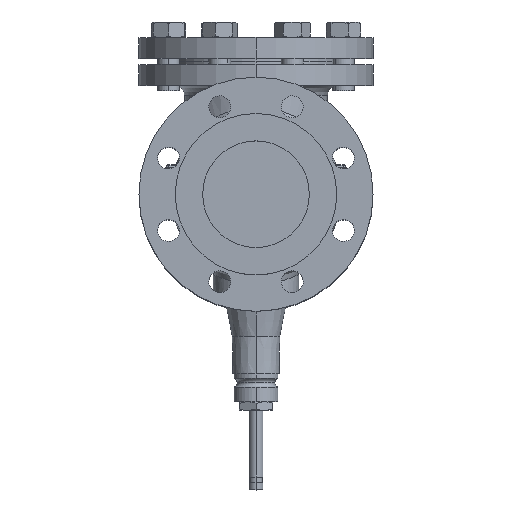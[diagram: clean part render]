
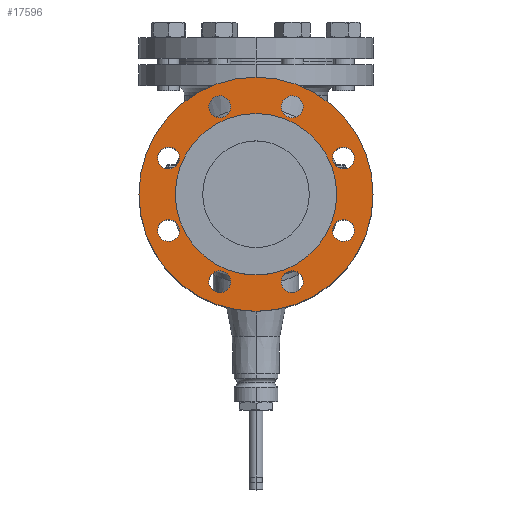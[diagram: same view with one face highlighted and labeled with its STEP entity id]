
A CAD part, top view. The second image highlights one B-rep face of the part: STEP entity #17596.
In plain terms, the highlighted planar face has unit normal (0, 0, 1).
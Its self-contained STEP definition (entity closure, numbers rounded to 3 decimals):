
#16772=CARTESIAN_POINT('',(0.,-117.5,347.0));
#16773=VERTEX_POINT('',#16772);
#16789=CARTESIAN_POINT('',(0.,117.5,347.0));
#16790=VERTEX_POINT('',#16789);
#16797=CARTESIAN_POINT('',(0.,0.,347.0));
#16798=DIRECTION('',(0.0,0.0,1.0));
#16799=DIRECTION('',(0.0,-1.0,0.0));
#16800=AXIS2_PLACEMENT_3D('',#16797,#16798,#16799);
#16801=CIRCLE('',#16800,117.5);
#16802=EDGE_CURVE('',#16773,#16790,#16801,.T.);
#16812=CARTESIAN_POINT('',(-40.564,-97.931,347.0));
#16813=VERTEX_POINT('',#16812);
#16822=CARTESIAN_POINT('',(-32.145,-77.606,347.0));
#16823=VERTEX_POINT('',#16822);
#16824=CARTESIAN_POINT('',(-36.355,-87.769,347.0));
#16825=DIRECTION('',(0.,0.,-1.));
#16826=DIRECTION('',(-0.383,-0.924,0.));
#16827=AXIS2_PLACEMENT_3D('',#16824,#16825,#16826);
#16828=CIRCLE('',#16827,11.);
#16829=EDGE_CURVE('',#16823,#16813,#16828,.T.);
#16854=CARTESIAN_POINT('',(-97.931,-40.564,347.0));
#16855=VERTEX_POINT('',#16854);
#16864=CARTESIAN_POINT('',(-77.606,-32.145,347.0));
#16865=VERTEX_POINT('',#16864);
#16866=CARTESIAN_POINT('',(-87.769,-36.355,347.0));
#16867=DIRECTION('',(0.,0.,-1.));
#16868=DIRECTION('',(-0.924,-0.383,0.));
#16869=AXIS2_PLACEMENT_3D('',#16866,#16867,#16868);
#16870=CIRCLE('',#16869,11.0);
#16871=EDGE_CURVE('',#16865,#16855,#16870,.T.);
#16896=CARTESIAN_POINT('',(-97.931,40.564,347.0));
#16897=VERTEX_POINT('',#16896);
#16906=CARTESIAN_POINT('',(-77.606,32.145,347.0));
#16907=VERTEX_POINT('',#16906);
#16908=CARTESIAN_POINT('',(-87.769,36.355,347.0));
#16909=DIRECTION('',(0.,0.,-1.));
#16910=DIRECTION('',(-0.924,0.383,0.));
#16911=AXIS2_PLACEMENT_3D('',#16908,#16909,#16910);
#16912=CIRCLE('',#16911,11.0);
#16913=EDGE_CURVE('',#16907,#16897,#16912,.T.);
#16938=CARTESIAN_POINT('',(-40.564,97.931,347.0));
#16939=VERTEX_POINT('',#16938);
#16948=CARTESIAN_POINT('',(-32.145,77.606,347.0));
#16949=VERTEX_POINT('',#16948);
#16950=CARTESIAN_POINT('',(-36.355,87.769,347.0));
#16951=DIRECTION('',(0.,0.,-1.0));
#16952=DIRECTION('',(-0.383,0.924,0.));
#16953=AXIS2_PLACEMENT_3D('',#16950,#16951,#16952);
#16954=CIRCLE('',#16953,11.0);
#16955=EDGE_CURVE('',#16949,#16939,#16954,.T.);
#16980=CARTESIAN_POINT('',(40.564,97.931,347.0));
#16981=VERTEX_POINT('',#16980);
#16990=CARTESIAN_POINT('',(32.145,77.606,347.0));
#16991=VERTEX_POINT('',#16990);
#16992=CARTESIAN_POINT('',(36.355,87.769,347.0));
#16993=DIRECTION('',(0.,0.,-1.));
#16994=DIRECTION('',(0.383,0.924,0.));
#16995=AXIS2_PLACEMENT_3D('',#16992,#16993,#16994);
#16996=CIRCLE('',#16995,11.);
#16997=EDGE_CURVE('',#16991,#16981,#16996,.T.);
#17022=CARTESIAN_POINT('',(97.931,40.564,347.0));
#17023=VERTEX_POINT('',#17022);
#17032=CARTESIAN_POINT('',(77.606,32.145,347.0));
#17033=VERTEX_POINT('',#17032);
#17034=CARTESIAN_POINT('',(87.769,36.355,347.0));
#17035=DIRECTION('',(0.,0.,-1.0));
#17036=DIRECTION('',(0.924,0.383,0.));
#17037=AXIS2_PLACEMENT_3D('',#17034,#17035,#17036);
#17038=CIRCLE('',#17037,11.0);
#17039=EDGE_CURVE('',#17033,#17023,#17038,.T.);
#17064=CARTESIAN_POINT('',(97.931,-40.564,347.0));
#17065=VERTEX_POINT('',#17064);
#17074=CARTESIAN_POINT('',(77.606,-32.145,347.0));
#17075=VERTEX_POINT('',#17074);
#17076=CARTESIAN_POINT('',(87.769,-36.355,347.0));
#17077=DIRECTION('',(0.,0.,-1.));
#17078=DIRECTION('',(0.924,-0.383,0.));
#17079=AXIS2_PLACEMENT_3D('',#17076,#17077,#17078);
#17080=CIRCLE('',#17079,11.);
#17081=EDGE_CURVE('',#17075,#17065,#17080,.T.);
#17106=CARTESIAN_POINT('',(40.564,-97.931,347.0));
#17107=VERTEX_POINT('',#17106);
#17116=CARTESIAN_POINT('',(32.145,-77.606,347.0));
#17117=VERTEX_POINT('',#17116);
#17118=CARTESIAN_POINT('',(36.355,-87.769,347.0));
#17119=DIRECTION('',(0.,0.,-1.));
#17120=DIRECTION('',(0.383,-0.924,0.));
#17121=AXIS2_PLACEMENT_3D('',#17118,#17119,#17120);
#17122=CIRCLE('',#17121,11.0);
#17123=EDGE_CURVE('',#17117,#17107,#17122,.T.);
#17148=CARTESIAN_POINT('',(0.,-81.,347.0));
#17149=VERTEX_POINT('',#17148);
#17158=CARTESIAN_POINT('',(0.,81.,347.0));
#17159=VERTEX_POINT('',#17158);
#17160=CARTESIAN_POINT('',(0.,0.,347.0));
#17161=DIRECTION('',(0.0,0.0,-1.0));
#17162=DIRECTION('',(0.0,-1.0,0.0));
#17163=AXIS2_PLACEMENT_3D('',#17160,#17161,#17162);
#17164=CIRCLE('',#17163,81.0);
#17165=EDGE_CURVE('',#17159,#17149,#17164,.T.);
#17265=CARTESIAN_POINT('',(0.,0.,347.0));
#17266=DIRECTION('',(0.0,0.0,-1.0));
#17267=DIRECTION('',(0.0,-1.0,0.0));
#17268=AXIS2_PLACEMENT_3D('',#17265,#17266,#17267);
#17269=CIRCLE('',#17268,81.0);
#17270=EDGE_CURVE('',#17149,#17159,#17269,.T.);
#17303=CARTESIAN_POINT('',(36.355,-87.769,347.0));
#17304=DIRECTION('',(0.,0.,-1.));
#17305=DIRECTION('',(0.383,-0.924,0.));
#17306=AXIS2_PLACEMENT_3D('',#17303,#17304,#17305);
#17307=CIRCLE('',#17306,11.0);
#17308=EDGE_CURVE('',#17107,#17117,#17307,.T.);
#17327=CARTESIAN_POINT('',(87.769,-36.355,347.0));
#17328=DIRECTION('',(0.,0.,-1.));
#17329=DIRECTION('',(0.924,-0.383,0.));
#17330=AXIS2_PLACEMENT_3D('',#17327,#17328,#17329);
#17331=CIRCLE('',#17330,11.);
#17332=EDGE_CURVE('',#17065,#17075,#17331,.T.);
#17351=CARTESIAN_POINT('',(87.769,36.355,347.0));
#17352=DIRECTION('',(0.,0.,-1.0));
#17353=DIRECTION('',(0.924,0.383,0.));
#17354=AXIS2_PLACEMENT_3D('',#17351,#17352,#17353);
#17355=CIRCLE('',#17354,11.0);
#17356=EDGE_CURVE('',#17023,#17033,#17355,.T.);
#17375=CARTESIAN_POINT('',(36.355,87.769,347.0));
#17376=DIRECTION('',(0.,0.,-1.));
#17377=DIRECTION('',(0.383,0.924,0.));
#17378=AXIS2_PLACEMENT_3D('',#17375,#17376,#17377);
#17379=CIRCLE('',#17378,11.);
#17380=EDGE_CURVE('',#16981,#16991,#17379,.T.);
#17399=CARTESIAN_POINT('',(-36.355,87.769,347.0));
#17400=DIRECTION('',(0.,0.,-1.0));
#17401=DIRECTION('',(-0.383,0.924,0.));
#17402=AXIS2_PLACEMENT_3D('',#17399,#17400,#17401);
#17403=CIRCLE('',#17402,11.0);
#17404=EDGE_CURVE('',#16939,#16949,#17403,.T.);
#17423=CARTESIAN_POINT('',(-87.769,36.355,347.0));
#17424=DIRECTION('',(0.,0.,-1.));
#17425=DIRECTION('',(-0.924,0.383,0.));
#17426=AXIS2_PLACEMENT_3D('',#17423,#17424,#17425);
#17427=CIRCLE('',#17426,11.0);
#17428=EDGE_CURVE('',#16897,#16907,#17427,.T.);
#17447=CARTESIAN_POINT('',(-87.769,-36.355,347.0));
#17448=DIRECTION('',(0.,0.,-1.));
#17449=DIRECTION('',(-0.924,-0.383,0.));
#17450=AXIS2_PLACEMENT_3D('',#17447,#17448,#17449);
#17451=CIRCLE('',#17450,11.0);
#17452=EDGE_CURVE('',#16855,#16865,#17451,.T.);
#17471=CARTESIAN_POINT('',(-36.355,-87.769,347.0));
#17472=DIRECTION('',(0.,0.,-1.));
#17473=DIRECTION('',(-0.383,-0.924,0.));
#17474=AXIS2_PLACEMENT_3D('',#17471,#17472,#17473);
#17475=CIRCLE('',#17474,11.);
#17476=EDGE_CURVE('',#16813,#16823,#17475,.T.);
#17487=CARTESIAN_POINT('',(0.,0.,347.0));
#17488=DIRECTION('',(0.0,0.0,1.0));
#17489=DIRECTION('',(0.0,-1.0,0.0));
#17490=AXIS2_PLACEMENT_3D('',#17487,#17488,#17489);
#17491=CIRCLE('',#17490,117.5);
#17492=EDGE_CURVE('',#16790,#16773,#17491,.T.);
#17551=CARTESIAN_POINT('',(0.,0.,347.0));
#17552=DIRECTION('',(0.0,0.0,1.0));
#17553=DIRECTION('',(0.0,-1.0,0.0));
#17554=AXIS2_PLACEMENT_3D('',#17551,#17552,#17553);
#17555=PLANE('',#17554);
#17556=ORIENTED_EDGE('',*,*,#16802,.T.);
#17557=ORIENTED_EDGE('',*,*,#17492,.T.);
#17558=EDGE_LOOP('',(#17556,#17557));
#17559=FACE_OUTER_BOUND('',#17558,.T.);
#17560=ORIENTED_EDGE('',*,*,#17270,.T.);
#17561=ORIENTED_EDGE('',*,*,#17165,.T.);
#17562=EDGE_LOOP('',(#17560,#17561));
#17563=FACE_BOUND('',#17562,.T.);
#17564=ORIENTED_EDGE('',*,*,#17308,.T.);
#17565=ORIENTED_EDGE('',*,*,#17123,.T.);
#17566=EDGE_LOOP('',(#17564,#17565));
#17567=FACE_BOUND('',#17566,.T.);
#17568=ORIENTED_EDGE('',*,*,#17332,.T.);
#17569=ORIENTED_EDGE('',*,*,#17081,.T.);
#17570=EDGE_LOOP('',(#17568,#17569));
#17571=FACE_BOUND('',#17570,.T.);
#17572=ORIENTED_EDGE('',*,*,#17356,.T.);
#17573=ORIENTED_EDGE('',*,*,#17039,.T.);
#17574=EDGE_LOOP('',(#17572,#17573));
#17575=FACE_BOUND('',#17574,.T.);
#17576=ORIENTED_EDGE('',*,*,#17380,.T.);
#17577=ORIENTED_EDGE('',*,*,#16997,.T.);
#17578=EDGE_LOOP('',(#17576,#17577));
#17579=FACE_BOUND('',#17578,.T.);
#17580=ORIENTED_EDGE('',*,*,#17404,.T.);
#17581=ORIENTED_EDGE('',*,*,#16955,.T.);
#17582=EDGE_LOOP('',(#17580,#17581));
#17583=FACE_BOUND('',#17582,.T.);
#17584=ORIENTED_EDGE('',*,*,#17428,.T.);
#17585=ORIENTED_EDGE('',*,*,#16913,.T.);
#17586=EDGE_LOOP('',(#17584,#17585));
#17587=FACE_BOUND('',#17586,.T.);
#17588=ORIENTED_EDGE('',*,*,#17452,.T.);
#17589=ORIENTED_EDGE('',*,*,#16871,.T.);
#17590=EDGE_LOOP('',(#17588,#17589));
#17591=FACE_BOUND('',#17590,.T.);
#17592=ORIENTED_EDGE('',*,*,#17476,.T.);
#17593=ORIENTED_EDGE('',*,*,#16829,.T.);
#17594=EDGE_LOOP('',(#17592,#17593));
#17595=FACE_BOUND('',#17594,.T.);
#17596=ADVANCED_FACE('',(#17559,#17563,#17567,#17571,#17575,#17579,#17583,#17587,#17591,#17595),#17555,.T.);
